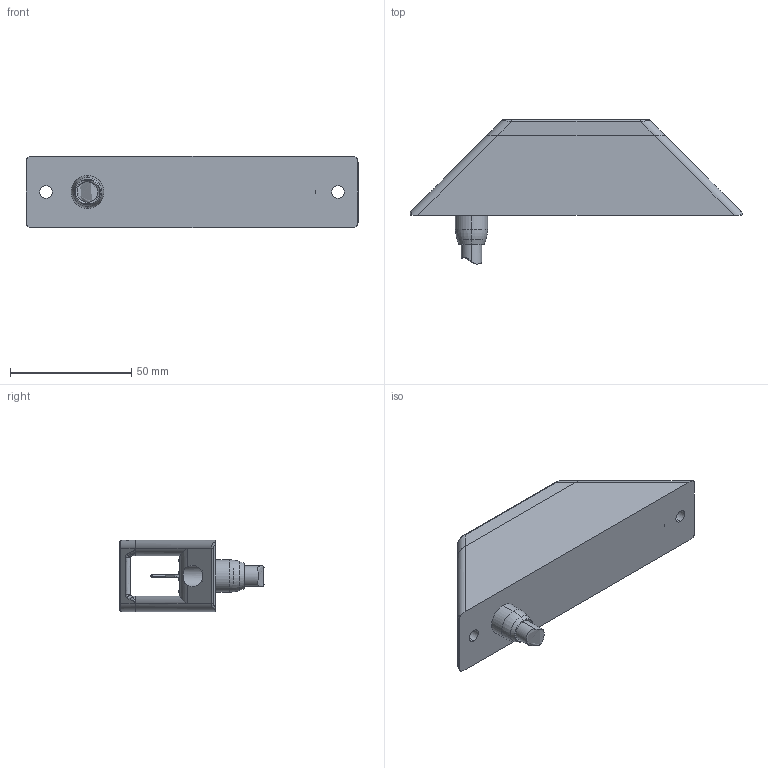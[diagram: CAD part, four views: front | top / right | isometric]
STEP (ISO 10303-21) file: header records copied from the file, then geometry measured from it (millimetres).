
FILE_DESCRIPTION (( 'STEP AP214' ), '1' );
FILE_NAME ('10058 Model 501-1 MCIL6M RevB NO DETAILS.STEP', '2025-08-17T04:29:15', ( '' ), ( '' ), 'SwSTEP 2.0', 'SolidWorks 2023', '' );
FILE_SCHEMA (( 'AUTOMOTIVE_DESIGN' ));
Length unit declared in the file: inch
Products named in the file (1): 10058 Model 501-1 MCIL6M RevB NO DETAILS
Bounding box: 137.16 x 59.5 x 29.44 mm (x, y, z)
Volume: 85241.3 mm3; surface area: 30440.3 mm2
Topology: 14 solids, 14 shells, 703 faces, 1835 edges, 1169 vertices
Faces by surface type: cylinder 331, plane 197, cone 92, bspline 43, torus 38, sphere 2
Entity records: 40751 total; most frequent: CARTESIAN_POINT 15406, ORIENTED_EDGE 3622, DIRECTION 3101, EDGE_CURVE 1811, AXIS2_PLACEMENT_3D 1178, VERTEX_POINT 1167, EDGE_LOOP 762, VECTOR 745
